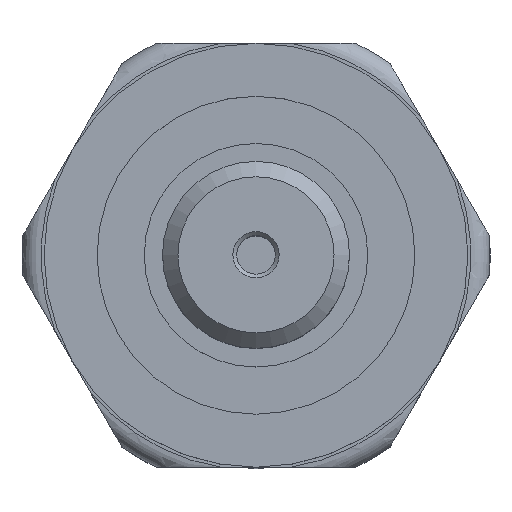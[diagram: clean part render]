
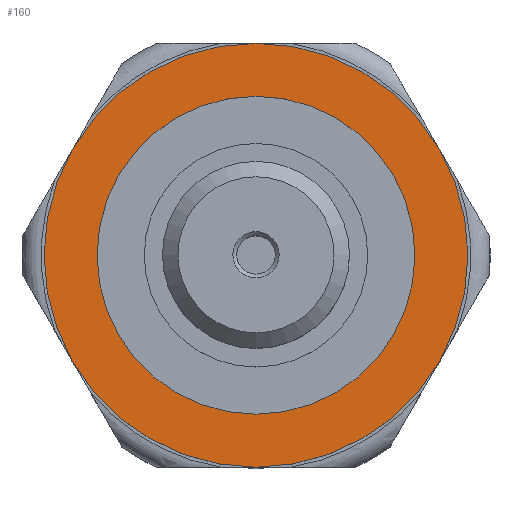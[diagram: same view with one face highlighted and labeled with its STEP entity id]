
A CAD part, top view. The second image highlights one B-rep face of the part: STEP entity #160.
In plain terms, the highlighted planar face has unit normal (0, 0, 1).
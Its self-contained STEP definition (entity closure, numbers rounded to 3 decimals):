
#73=CARTESIAN_POINT('',(11.,0.0,45.0));
#74=VERTEX_POINT('',#73);
#75=CARTESIAN_POINT('',(0.0,0.0,45.0));
#76=DIRECTION('',(0.0,0.0,1.0));
#77=DIRECTION('',(1.0,0.0,0.0));
#78=AXIS2_PLACEMENT_3D('',#75,#76,#77);
#79=CIRCLE('',#78,11.);
#80=EDGE_CURVE('',#74,#74,#79,.T.);
#141=CARTESIAN_POINT('',(9.625,0.0,45.0));
#142=DIRECTION('',(0.0,0.0,1.0));
#143=DIRECTION('',(1.0,0.0,0.0));
#144=AXIS2_PLACEMENT_3D('',#141,#142,#143);
#145=PLANE('',#144);
#146=ORIENTED_EDGE('',*,*,#80,.T.);
#147=EDGE_LOOP('',(#146));
#148=FACE_OUTER_BOUND('',#147,.T.);
#149=CARTESIAN_POINT('',(8.25,0.0,45.));
#150=VERTEX_POINT('',#149);
#151=CARTESIAN_POINT('',(0.0,0.0,45.));
#152=DIRECTION('',(0.0,0.0,1.0));
#153=DIRECTION('',(1.0,0.0,0.0));
#154=AXIS2_PLACEMENT_3D('',#151,#152,#153);
#155=CIRCLE('',#154,8.25);
#156=EDGE_CURVE('',#150,#150,#155,.T.);
#157=ORIENTED_EDGE('',*,*,#156,.F.);
#158=EDGE_LOOP('',(#157));
#159=FACE_BOUND('',#158,.T.);
#160=ADVANCED_FACE('',(#148,#159),#145,.T.);
